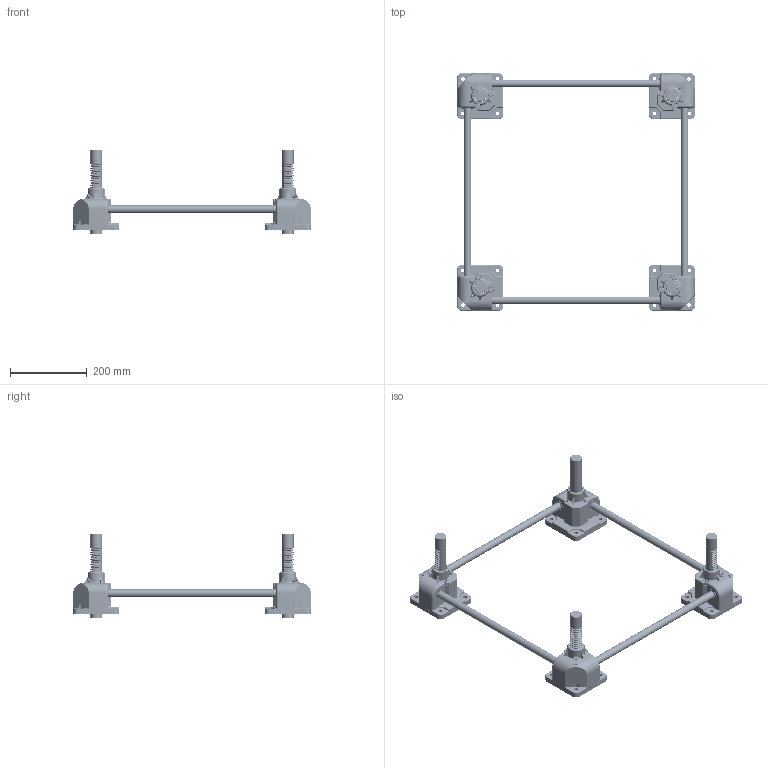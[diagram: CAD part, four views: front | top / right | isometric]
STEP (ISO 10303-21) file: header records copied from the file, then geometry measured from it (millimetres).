
FILE_DESCRIPTION(('STEP AP203'),'1');
FILE_NAME('SP900U-500x500-100ST.stp','2022-06-15T01:45:20',(' '),(' '),'Spatial InterOp 3D',' ',' ');
FILE_SCHEMA(('CONFIG_CONTROL_DESIGN'));
Length unit declared in the file: millimetre
Products named in the file (87): SP900U-500x500-100ST; ASSEM1; Body.1-Part; Bolt; Nipple; Gear Box.1(Upper); Body_stand by; Gear Box.1(Lower); RJ05-4SCJ-610X600-100ST_CAP; LABEL-B.1; ___; 파트18; __; Body.2-Part; Gear Box.2(Upper); Gear Box.2(Lower); Body.3-Part; Gear Box.3(Upper); Gear Box.3(Lower); Body.4-Part; Gear Box.4(Upper); Gear Box.4(Lower); Shaft.1; Shaft.2
Assembly tree (88 placements, depth 6):
  SP900U-500x500-100ST
    ASSEM1
    (unnamed)
    (unnamed)
    (unnamed)
    Body.1-Part
      Bolt
      Bolt
      Bolt
      Nipple
      Gear Box.1(Upper)
        Body_stand by
        Body_stand by
        Body_stand by
        Body_stand by
      Gear Box.1(Lower)
        Body_stand by
        Body_stand by
        Body_stand by
        Body_stand by
      __
        ___
          RJ05-4SCJ-610X600-100ST_CAP
            LABEL-B.1
          파트18
    Body.2-Part
      Bolt
      Bolt
      Bolt
      Nipple
      Gear Box.2(Upper)
        Body_stand by
        Body_stand by
        Body_stand by
        Body_stand by
      Gear Box.2(Lower)
        Body_stand by
        Body_stand by
        Body_stand by
        Body_stand by
      __
        ___
          RJ05-4SCJ-610X600-100ST_CAP
            LABEL-B.1
          파트18
    Body.3-Part
      Bolt
      Bolt
      Bolt
      Nipple
      Gear Box.3(Upper)
        Body_stand by
        Body_stand by
        Body_stand by
        Body_stand by
      Gear Box.3(Lower)
        Body_stand by
        Body_stand by
        Body_stand by
        Body_stand by
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Bounding box: 620.44 x 620.44 x 220 mm (x, y, z)
Volume: 1291689.1 mm3; surface area: 772718.5 mm2
Topology: 48 solids, 80 shells, 9804 faces, 27804 edges, 18020 vertices
Faces by surface type: plane 7472, cylinder 1724, torus 204, bspline 184, sphere 100, cone 56, extrusion 36, revolution 28
Full cylindrical faces by diameter (mm): 3.113 x4, 6 x4, 6.6 x4, 8 x12, 12 x4, 14 x12, 20 x4, 30 x4
Entity records: 344990 total; most frequent: CARTESIAN_POINT 91223, ORIENTED_EDGE 54128, DIRECTION 47770, EDGE_CURVE 27180, VECTOR 22440, LINE 22404, VERTEX_POINT 17820, AXIS2_PLACEMENT_3D 12651
